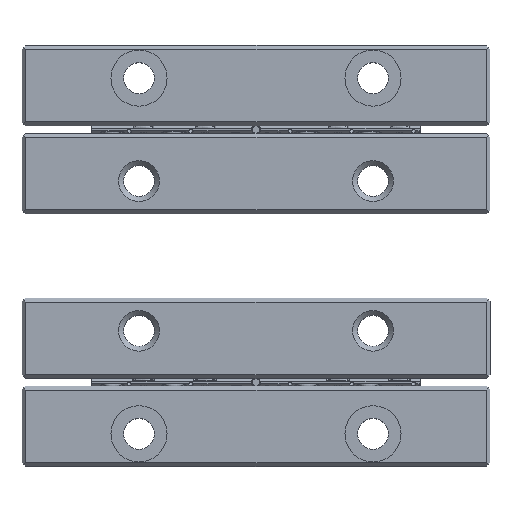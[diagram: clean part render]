
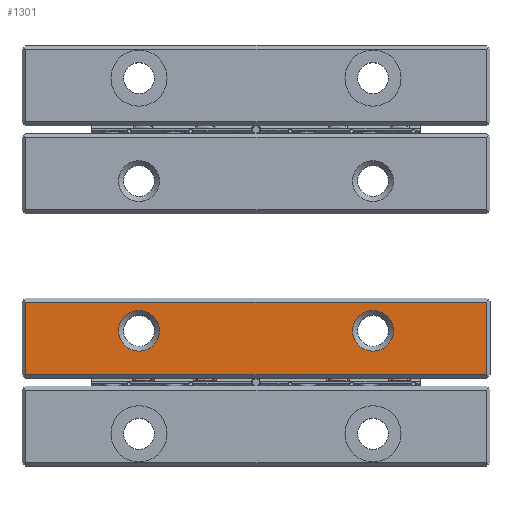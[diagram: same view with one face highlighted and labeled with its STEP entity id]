
A CAD part, top view. The second image highlights one B-rep face of the part: STEP entity #1301.
In plain terms, the highlighted planar face has unit normal (0, 0, 1) as drawn and (0, 0, -1) by its records, which use the part's own axes.
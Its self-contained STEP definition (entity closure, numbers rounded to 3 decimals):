
#703=FACE_BOUND('',#2565,.T.);
#704=FACE_BOUND('',#2566,.T.);
#705=FACE_BOUND('',#2567,.T.);
#863=CIRCLE('',#10402,2.175);
#864=CIRCLE('',#10403,2.175);
#1301=ADVANCED_FACE('',(#703,#704,#705),#1831,.T.);
#1831=PLANE('',#10404);
#2565=EDGE_LOOP('',(#3214));
#2566=EDGE_LOOP('',(#3215));
#2567=EDGE_LOOP('',(#3216,#3217,#3218,#3219));
#3214=ORIENTED_EDGE('',*,*,#7143,.T.);
#3215=ORIENTED_EDGE('',*,*,#7144,.T.);
#3216=ORIENTED_EDGE('',*,*,#7145,.T.);
#3217=ORIENTED_EDGE('',*,*,#7146,.T.);
#3218=ORIENTED_EDGE('',*,*,#7147,.T.);
#3219=ORIENTED_EDGE('',*,*,#7148,.T.);
#6146=VERTEX_POINT('',#14303);
#6147=VERTEX_POINT('',#14305);
#6148=VERTEX_POINT('',#14307);
#6149=VERTEX_POINT('',#14308);
#6150=VERTEX_POINT('',#14310);
#6151=VERTEX_POINT('',#14312);
#7143=EDGE_CURVE('',#6146,#6146,#863,.T.);
#7144=EDGE_CURVE('',#6147,#6147,#864,.T.);
#7145=EDGE_CURVE('',#6148,#6149,#8607,.T.);
#7146=EDGE_CURVE('',#6149,#6150,#8608,.T.);
#7147=EDGE_CURVE('',#6150,#6151,#8609,.T.);
#7148=EDGE_CURVE('',#6151,#6148,#8610,.T.);
#8607=LINE('',#14306,#9500);
#8608=LINE('',#14309,#9501);
#8609=LINE('',#14311,#9502);
#8610=LINE('',#14313,#9503);
#9500=VECTOR('',#11418,1.);
#9501=VECTOR('',#11419,1.);
#9502=VECTOR('',#11420,1.);
#9503=VECTOR('',#11421,1.);
#10402=AXIS2_PLACEMENT_3D('',#14302,#11414,#11415);
#10403=AXIS2_PLACEMENT_3D('',#14304,#11416,#11417);
#10404=AXIS2_PLACEMENT_3D('',#14314,#11422,#11423);
#11414=DIRECTION('',(0.,0.,1.));
#11415=DIRECTION('',(1.,0.,0.));
#11416=DIRECTION('',(0.,0.,1.));
#11417=DIRECTION('',(1.,0.,0.));
#11418=DIRECTION('',(-1.,0.,0.));
#11419=DIRECTION('',(0.,1.,0.));
#11420=DIRECTION('',(1.,0.,0.));
#11421=DIRECTION('',(0.,-1.,0.));
#11422=DIRECTION('',(0.,0.,-1.));
#11423=DIRECTION('',(-1.,0.,0.));
#14302=CARTESIAN_POINT('',(37.5,3.5,0.));
#14303=CARTESIAN_POINT('',(39.675,3.5,0.));
#14304=CARTESIAN_POINT('',(12.5,3.5,0.));
#14305=CARTESIAN_POINT('',(14.675,3.5,0.));
#14306=CARTESIAN_POINT('',(25.,0.425,0.));
#14307=CARTESIAN_POINT('',(49.575,0.425,0.));
#14308=CARTESIAN_POINT('',(0.425,0.425,0.));
#14309=CARTESIAN_POINT('',(0.425,4.3,0.));
#14310=CARTESIAN_POINT('',(0.425,8.175,0.));
#14311=CARTESIAN_POINT('',(25.,8.175,0.));
#14312=CARTESIAN_POINT('',(49.575,8.175,0.));
#14313=CARTESIAN_POINT('',(49.575,4.3,0.));
#14314=CARTESIAN_POINT('',(25.,4.3,0.));
